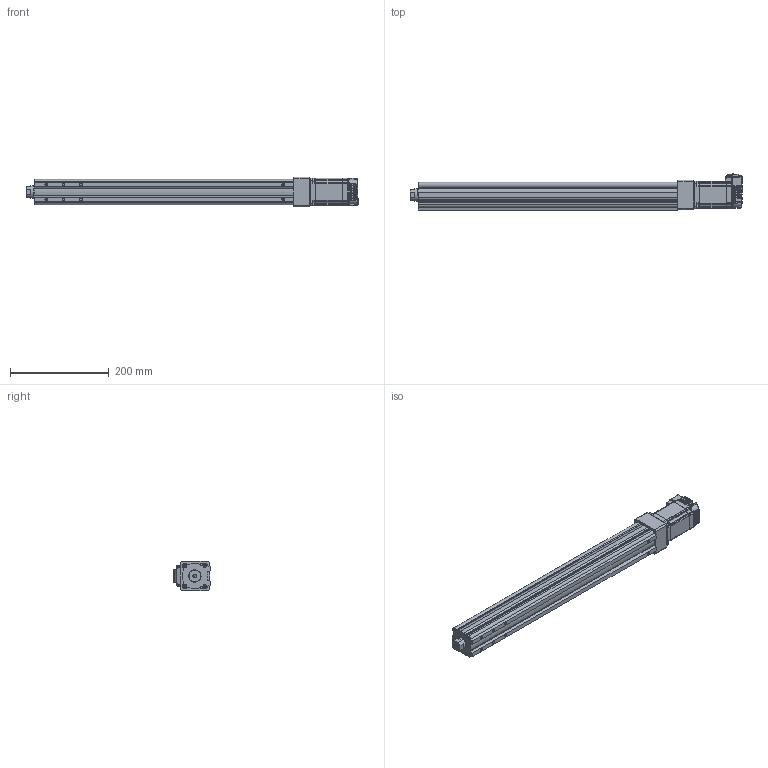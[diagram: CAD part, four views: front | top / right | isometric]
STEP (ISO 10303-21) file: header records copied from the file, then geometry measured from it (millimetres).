
FILE_DESCRIPTION (( 'STEP AP214' ), '1' );
FILE_NAME ('LEY3(+)-32DNM1□-400-23L.STEP', '2023-04-06T07:46:51', ( '' ), ( '' ), 'SwSTEP 2.0', 'SolidWorks 2019', '' );
FILE_SCHEMA (( 'AUTOMOTIVE_DESIGN' ));
Length unit declared in the file: millimetre
Products named in the file (5): LEY3(+)-32NM1?_BODY_400; LEY3(+)-32DNM1□-400-23L; LEY3(+)-32DNM1_MOTOR Flange; LEY3(+)-32NM1?_ROD_400; CM3(+)-23L50A_2-M4_01
Assembly tree (4 placements, depth 2):
  LEY3(+)-32DNM1□-400-23L
    LEY3(+)-32NM1?_BODY_400
    LEY3(+)-32NM1?_ROD_400
    LEY3(+)-32DNM1_MOTOR Flange
    CM3(+)-23L50A_2-M4_01
Bounding box: 672.8 x 73.75 x 60 mm (x, y, z)
Volume: 1599242.9 mm3; surface area: 273650.8 mm2
Topology: 4 solids, 13 shells, 1439 faces, 3713 edges, 2295 vertices
Faces by surface type: plane 668, cylinder 432, bspline 133, cone 101, torus 58, sphere 47
Full cylindrical faces by diameter (mm): 2.5 x4, 3 x2, 3.2 x4, 4.2 x1, 4.5 x7, 4.9 x10, 5 x1, 6.2 x4, 6.35 x1, 6.8 x1, 7 x2, 8 x2, 24.8 x1, 25 x2, 32 x2, 38.1 x1
Entity records: 49056 total; most frequent: CARTESIAN_POINT 12638, ORIENTED_EDGE 7102, DIRECTION 6555, EDGE_CURVE 3551, VERTEX_POINT 2267, AXIS2_PLACEMENT_3D 2230, VECTOR 2095, LINE 2095
